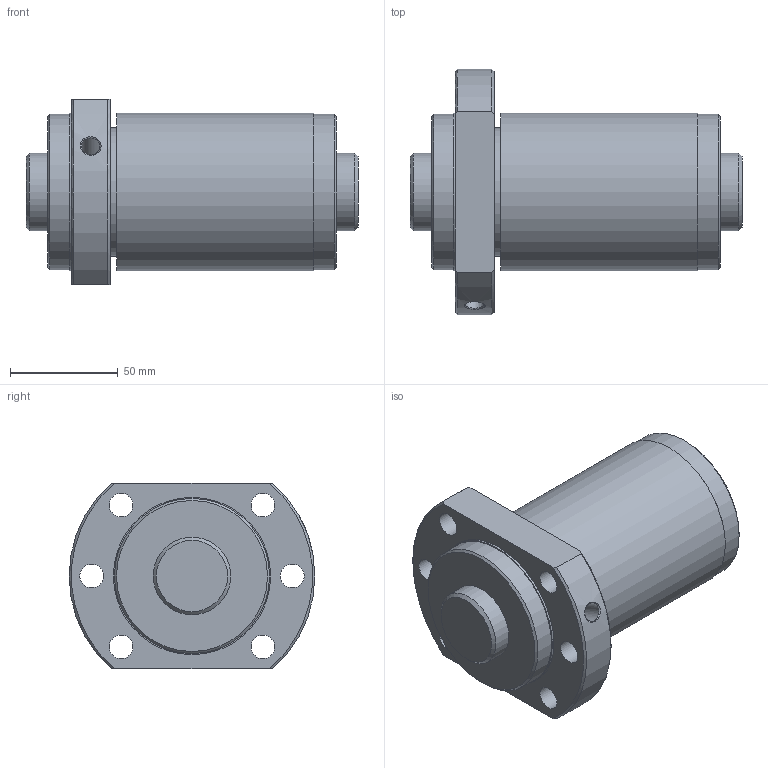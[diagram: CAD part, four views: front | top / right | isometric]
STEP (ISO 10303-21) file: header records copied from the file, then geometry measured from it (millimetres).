
FILE_DESCRIPTION(/* description */ ('STEP AP203'),/* implementation_level */ '2;1');
FILE_NAME(/* name */ 'SBK3636-5.6RRG0+154LC0(0000)',/* time_stamp */ '2024-05-28T11:20:07+02:00',/* author */ ('License CC BY-ND 4.0'),/* organization */ ('CADENAS'),/* preprocessor_version */ 'ST-DEVELOPER v19.3',/* originating_system */ 'PARTsolutions',/* authorisation */ ' ');
FILE_SCHEMA (('CONFIG_CONTROL_DESIGN'));
Length unit declared in the file: millimetre
Products named in the file (3): SBK3636-5.6RRG0+154LC0(0000); NRR000SBK3636-5.60Shaft; NRR000SBK3636-5.6Nut
Assembly tree (2 placements, depth 2):
  SBK3636-5.6RRG0+154LC0(0000)
    NRR000SBK3636-5.60Shaft
    NRR000SBK3636-5.6Nut
Bounding box: 154 x 114 x 86 mm (x, y, z)
Volume: 644869.3 mm3; surface area: 88047 mm2
Topology: 2 solids, 2 shells, 37 faces, 80 edges, 52 vertices
Faces by surface type: cylinder 16, plane 11, cone 10
Full cylindrical faces by diameter (mm): 8.566 x1, 11 x6, 36 x2, 59.714 x1, 72 x2, 73 x2
Entity records: 1021 total; most frequent: CARTESIAN_POINT 184, DIRECTION 168, ORIENTED_EDGE 114, AXIS2_PLACEMENT_3D 80, FACE_BOUND 77, EDGE_LOOP 76, EDGE_CURVE 57, VERTEX_POINT 50
